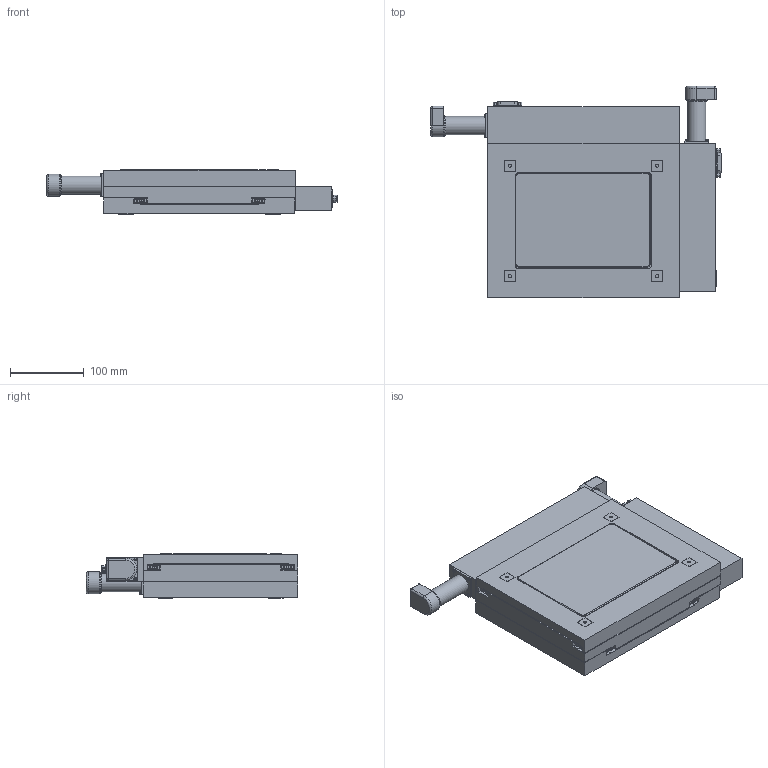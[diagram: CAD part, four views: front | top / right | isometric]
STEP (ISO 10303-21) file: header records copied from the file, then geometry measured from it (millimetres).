
FILE_DESCRIPTION(/* description */ (''),/* implementation_level */ '2;1');
FILE_NAME(/* name */ 'H:\Inventor\Katalog\3D-CAD-Modelle\STP neu\KT6-LGDx-CAD.stp',/* time_stamp */ '2024-01-17T11:42:56+01:00',/* author */ ('KON3'),/* organization */ (''),/* preprocessor_version */ 'ST-DEVELOPER v18',/* originating_system */ 'Autodesk Inventor 2020',/* authorisation */ '');
FILE_SCHEMA (('AUTOMOTIVE_DESIGN { 1 0 10303 214 3 1 1 }'));
Products named in the file (5): KT6-LGDx-CAD; KT6-LHOx_unten; KT6-LGDX_mitte; KT6-LSOx_oben; KT6.04
Assembly tree (4 placements, depth 2):
  KT6-LGDx-CAD
    KT6-LHOx_unten
    KT6-LGDX_mitte
    KT6-LSOx_oben
    KT6.04
Bounding box: 395 x 287.7 x 60 mm (x, y, z)
Volume: 3406460.8 mm3; surface area: 601583.2 mm2
Topology: 54 solids, 54 shells, 2468 faces, 6369 edges, 4278 vertices
Faces by surface type: plane 1365, cylinder 579, bspline 388, cone 102, torus 30, sphere 4
Full cylindrical faces by diameter (mm): 1 x60, 1.567 x8, 2.156 x4, 2.256 x8, 2.4 x16, 2.459 x24, 2.5 x8, 2.8 x8, 3 x10, 3.2 x4, 3.242 x80, 3.3 x8, 3.5 x16, 4.134 x8, 5 x8, 6 x72, 7.5 x16, 8 x16, 10 x6, 18 x2, 25 x2, 28.5 x2, 81 x1
Entity records: 82725 total; most frequent: CARTESIAN_POINT 20188, ORIENTED_EDGE 12658, DIRECTION 11613, EDGE_CURVE 6329, VERTEX_POINT 4278, AXIS2_PLACEMENT_3D 3999, LINE 3615, VECTOR 3615
